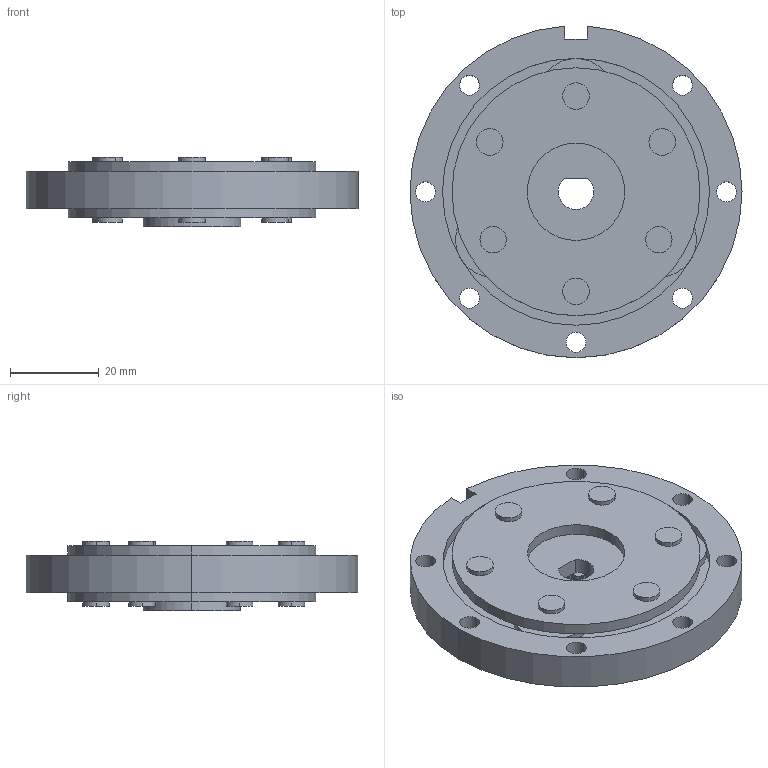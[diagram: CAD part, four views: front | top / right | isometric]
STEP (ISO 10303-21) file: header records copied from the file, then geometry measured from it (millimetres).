
FILE_DESCRIPTION (( 'STEP AP203' ), '1' );
FILE_NAME ('LGU75-3MAD.step', '2021-07-23T02:26:52', ( '' ), ( '' ), 'SwSTEP 2.0', 'SolidWorks 2021', '' );
FILE_SCHEMA (( 'CONFIG_CONTROL_DESIGN' ));
Length unit declared in the file: millimetre
Products named in the file (1): LGU75-3MAD
Bounding box: 75 x 74.92 x 15.7 mm (x, y, z)
Volume: 36643.8 mm3; surface area: 23097.7 mm2
Topology: 1 solids, 1 shells, 267 faces, 720 edges, 480 vertices
Faces by surface type: cylinder 236, plane 31
Entity records: 8799 total; most frequent: DIRECTION 1728, CARTESIAN_POINT 1468, ORIENTED_EDGE 1440, AXIS2_PLACEMENT_3D 740, EDGE_CURVE 720, VERTEX_POINT 480, CIRCLE 472, EDGE_LOOP 320
